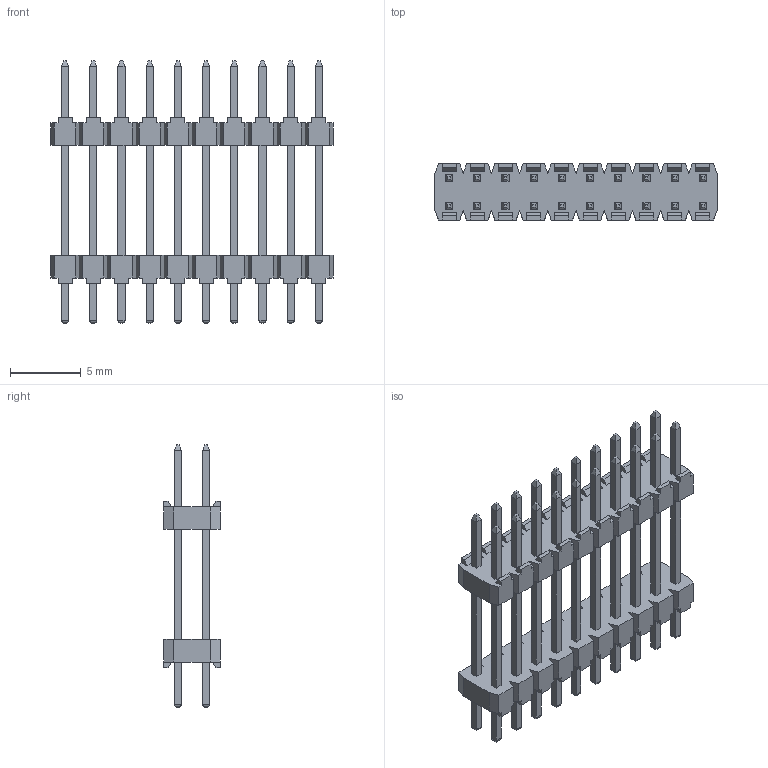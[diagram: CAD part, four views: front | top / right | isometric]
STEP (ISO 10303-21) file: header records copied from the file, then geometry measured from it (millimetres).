
FILE_DESCRIPTION(/* description */ (''),/* implementation_level */ '2;1');
FILE_NAME(/* name */ '951420-8012206-AR',/* time_stamp */ '2007-03-14T08:23:36+01:00',/* author */ (''),/* organization */ (''),/* preprocessor_version */ 'ST-DEVELOPER v9',/* originating_system */ 'UGS - NX 4.0',/* authorisation */ '');
FILE_SCHEMA (('AUTOMOTIVE_DESIGN { 1 0 10303 214 1 1 1 1 }'));
Length unit declared in the file: millimetre
Products named in the file (1): 951420-8012206-AR
Bounding box: 20 x 4 x 18.6 mm (x, y, z)
Volume: 327.4 mm3; surface area: 1146.1 mm2
Topology: 1 solids, 1 shells, 728 faces, 1892 edges, 1208 vertices
Faces by surface type: plane 648, cylinder 80
Entity records: 21756 total; most frequent: CARTESIAN_POINT 3829, ORIENTED_EDGE 3784, DIRECTION 3430, EDGE_CURVE 1892, LINE 1812, VECTOR 1812, VERTEX_POINT 1208, AXIS2_PLACEMENT_3D 809
